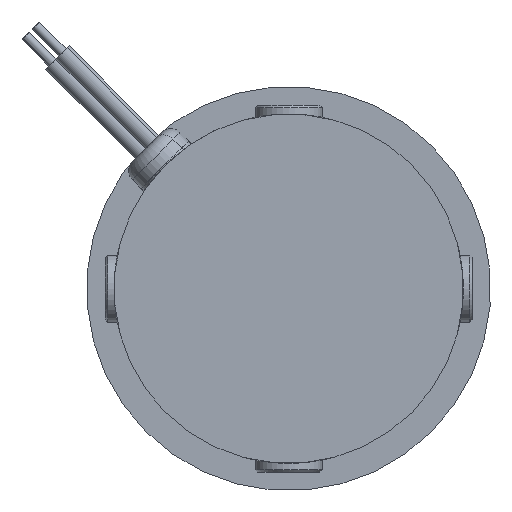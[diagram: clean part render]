
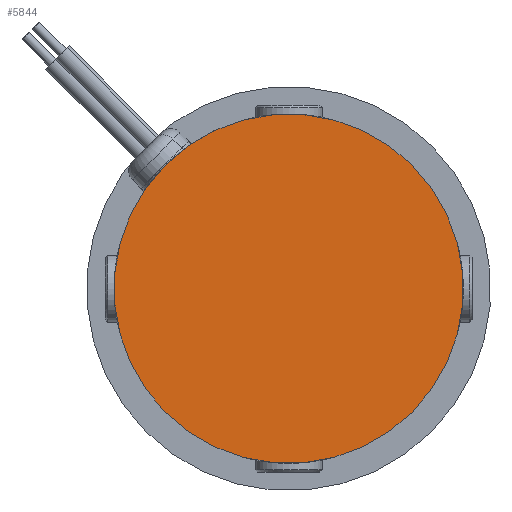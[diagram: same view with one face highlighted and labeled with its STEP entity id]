
A CAD part, left-side view. The second image highlights one B-rep face of the part: STEP entity #5844.
In plain terms, the highlighted planar face has unit normal (-1, 0, 0).
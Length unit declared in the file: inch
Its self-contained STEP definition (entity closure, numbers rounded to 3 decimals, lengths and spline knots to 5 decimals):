
#192 = VERTEX_POINT ( 'NONE', #780 ) ;
#528 = AXIS2_PLACEMENT_3D ( 'NONE', #9300, #4616, #8559 ) ;
#566 = ORIENTED_EDGE ( 'NONE', *, *, #4203, .F. ) ;
#673 = CIRCLE ( 'NONE', #8926, 1.37795 ) ;
#780 = CARTESIAN_POINT ( 'NONE',  ( -2.13486, 2.03246, 7.02946 ) ) ;
#802 = DIRECTION ( 'NONE',  ( 1., 0., 0. ) ) ;
#1116 = VERTEX_POINT ( 'NONE', #3405 ) ;
#1324 = CARTESIAN_POINT ( 'NONE',  ( -2.13486, 3.00682, 6.0551 ) ) ;
#1415 = CIRCLE ( 'NONE', #2150, 1.37795 ) ;
#1493 = PLANE ( 'NONE',  #528 ) ;
#2150 = AXIS2_PLACEMENT_3D ( 'NONE', #2264, #802, #6257 ) ;
#2264 = CARTESIAN_POINT ( 'NONE',  ( -2.13486, 3.00682, 6.0551 ) ) ;
#3405 = CARTESIAN_POINT ( 'NONE',  ( -2.13486, 3.98118, 5.08074 ) ) ;
#3855 = EDGE_CURVE ( 'NONE', #1116, #192, #1415, .T. ) ;
#4203 = EDGE_CURVE ( 'NONE', #192, #1116, #673, .T. ) ;
#4616 = DIRECTION ( 'NONE',  ( 1., 0., 0. ) ) ;
#5033 = FACE_OUTER_BOUND ( 'NONE', #6617, .T. ) ;
#5108 = ORIENTED_EDGE ( 'NONE', *, *, #3855, .F. ) ;
#5245 = DIRECTION ( 'NONE',  ( 1., 0., 0. ) ) ;
#5284 = DIRECTION ( 'NONE',  ( 0., -0.707, 0.707 ) ) ;
#5844 = ADVANCED_FACE ( 'NONE', ( #5033 ), #1493, .F. ) ;
#6257 = DIRECTION ( 'NONE',  ( 0., -0.707, 0.707 ) ) ;
#6617 = EDGE_LOOP ( 'NONE', ( #5108, #566 ) ) ;
#8559 = DIRECTION ( 'NONE',  ( 0., -0.707, 0.707 ) ) ;
#8926 = AXIS2_PLACEMENT_3D ( 'NONE', #1324, #5245, #5284 ) ;
#9300 = CARTESIAN_POINT ( 'NONE',  ( -2.13486, 3.00682, 6.0551 ) ) ;
